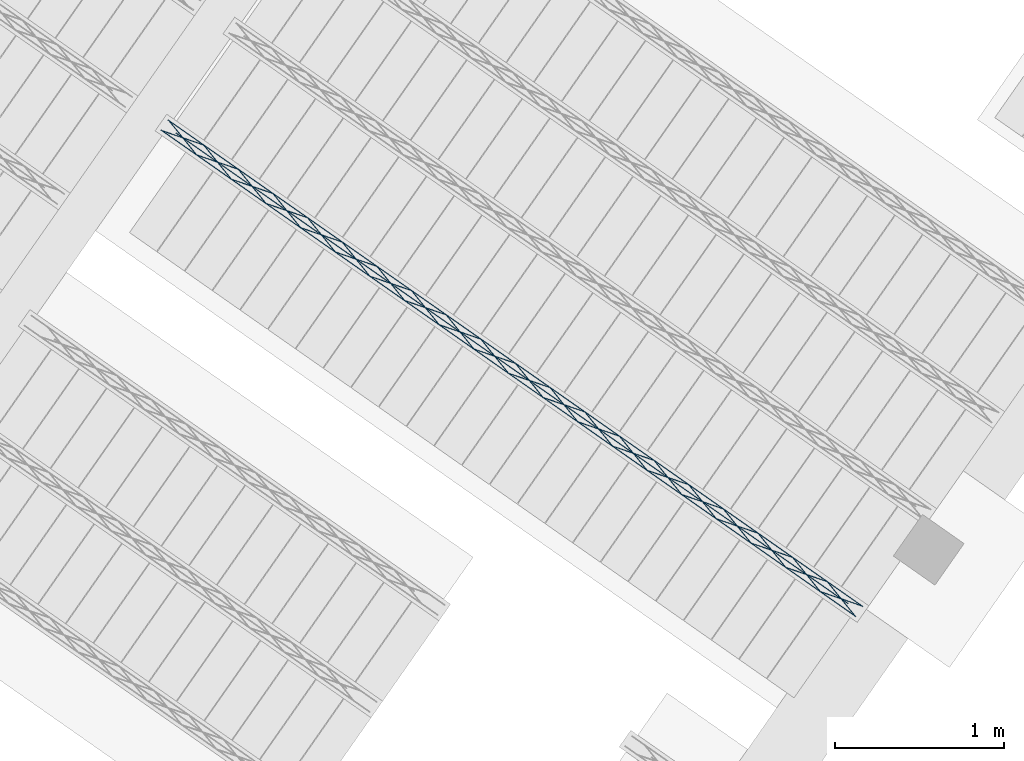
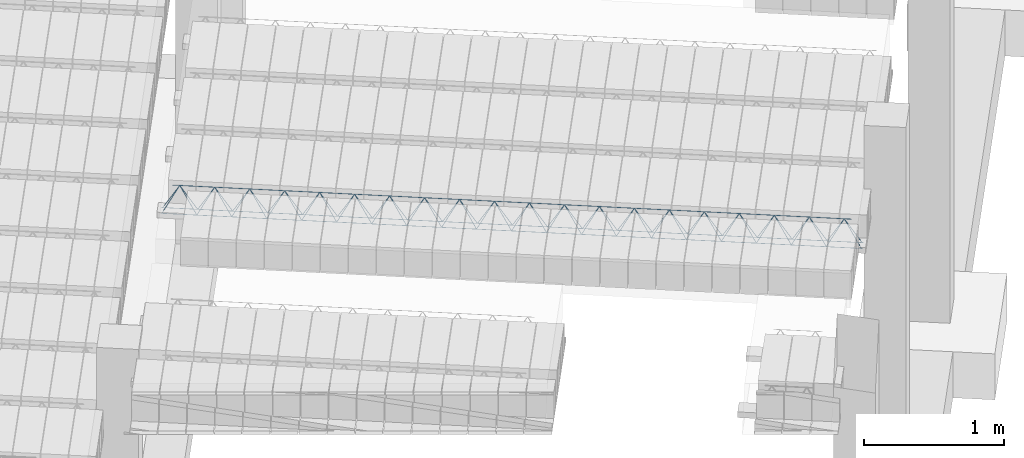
# One storey, part 22 of 80: 1 member.
"""IFC2X3 building model written with IfcOpenShell, lengths in metres."""

from ifc_helpers import new_model, entity, si_unit, converted_unit, derived_unit, direction, frame, origin, origin_2d_with_axis, place, context, subcontext, project, spatial, circle, extrude, type_object, element, save


model = new_model("IFC2X3")

# Units and contexts
model_context = context("Model", 3, precision=1e-05, world=origin(), true_north=direction((6.123031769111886e-17, 1.0)))
body_context = subcontext(model_context, "Body", "Model", "MODEL_VIEW")
ifc_project = project(units=[si_unit("LENGTHUNIT", "METRE"), si_unit("AREAUNIT", "SQUARE_METRE"), si_unit("VOLUMEUNIT", "CUBIC_METRE"), converted_unit("PLANEANGLEUNIT", "DEGREE", entity("IfcPlaneAngleMeasure", 0.017453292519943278), si_unit("PLANEANGLEUNIT", "RADIAN"), dimensions=[0, 0, 0, 0, 0, 0, 0]), si_unit("MASSUNIT", "GRAM", prefix="KILO"), derived_unit("MASSDENSITYUNIT", [(si_unit("MASSUNIT", "GRAM", prefix="KILO"), 1), (si_unit("LENGTHUNIT", "METRE"), -3)]), derived_unit("IONCONCENTRATIONUNIT", [(si_unit("MASSUNIT", "GRAM", prefix="KILO"), 1), (si_unit("LENGTHUNIT", "METRE"), -3)]), derived_unit("MOMENTOFINERTIAUNIT", [(si_unit("LENGTHUNIT", "METRE"), 4)]), si_unit("TIMEUNIT", "SECOND"), si_unit("FREQUENCYUNIT", "HERTZ"), si_unit("THERMODYNAMICTEMPERATUREUNIT", "DEGREE_CELSIUS"), derived_unit("THERMALTRANSMITTANCEUNIT", [(si_unit("MASSUNIT", "GRAM", prefix="KILO"), 1), (si_unit("THERMODYNAMICTEMPERATUREUNIT", "KELVIN"), -1), (si_unit("TIMEUNIT", "SECOND"), -3)]), derived_unit("THERMALCONDUCTANCEUNIT", [(si_unit("MASSUNIT", "GRAM", prefix="KILO"), 1), (si_unit("THERMODYNAMICTEMPERATUREUNIT", "KELVIN"), -1), (si_unit("TIMEUNIT", "SECOND"), -3), (si_unit("LENGTHUNIT", "METRE"), 1)]), derived_unit("VOLUMETRICFLOWRATEUNIT", [(si_unit("LENGTHUNIT", "METRE", prefix="DECI"), 3), (si_unit("TIMEUNIT", "SECOND"), -1)]), derived_unit("MASSFLOWRATEUNIT", [(si_unit("MASSUNIT", "GRAM", prefix="KILO"), 1), (si_unit("TIMEUNIT", "SECOND"), -1)]), derived_unit("ROTATIONALFREQUENCYUNIT", [(si_unit("TIMEUNIT", "SECOND"), -1)]), si_unit("ELECTRICCURRENTUNIT", "AMPERE"), si_unit("ELECTRICVOLTAGEUNIT", "VOLT"), si_unit("POWERUNIT", "WATT"), si_unit("FORCEUNIT", "NEWTON", prefix="KILO"), si_unit("ILLUMINANCEUNIT", "LUX"), si_unit("LUMINOUSFLUXUNIT", "LUMEN"), si_unit("LUMINOUSINTENSITYUNIT", "CANDELA"), si_unit("ENERGYUNIT", "JOULE"), derived_unit("USERDEFINED", [(si_unit("MASSUNIT", "GRAM", prefix="KILO"), -1), (si_unit("LENGTHUNIT", "METRE"), -2), (si_unit("TIMEUNIT", "SECOND"), 3), (si_unit("LUMINOUSFLUXUNIT", "LUMEN"), 1)]), derived_unit("USERDEFINED", [(si_unit("MASSUNIT", "GRAM", prefix="KILO"), 1), (si_unit("TIMEUNIT", "SECOND"), -3), (si_unit("LENGTHUNIT", "METRE"), 3), (si_unit("ELECTRICCURRENTUNIT", "AMPERE"), -2)]), derived_unit("SOUNDPOWERUNIT", [(si_unit("MASSUNIT", "GRAM", prefix="KILO"), 1), (si_unit("TIMEUNIT", "SECOND"), -3), (si_unit("LENGTHUNIT", "METRE"), 2)]), derived_unit("SOUNDPRESSUREUNIT", [(si_unit("MASSUNIT", "GRAM", prefix="KILO"), 1), (si_unit("LENGTHUNIT", "METRE"), -1), (si_unit("TIMEUNIT", "SECOND"), -2)]), derived_unit("LINEARVELOCITYUNIT", [(si_unit("LENGTHUNIT", "METRE"), 1), (si_unit("TIMEUNIT", "SECOND"), -1)]), si_unit("PRESSUREUNIT", "PASCAL"), derived_unit("USERDEFINED", [(si_unit("MASSUNIT", "GRAM", prefix="KILO"), 1), (si_unit("LENGTHUNIT", "METRE"), -2), (si_unit("TIMEUNIT", "SECOND"), -2)]), derived_unit("LINEARFORCEUNIT", [(si_unit("MASSUNIT", "GRAM", prefix="KILO"), 1), (si_unit("TIMEUNIT", "SECOND"), -2)]), derived_unit("PLANARFORCEUNIT", [(si_unit("MASSUNIT", "GRAM", prefix="KILO"), 1), (si_unit("LENGTHUNIT", "METRE"), -1), (si_unit("TIMEUNIT", "SECOND"), -2)]), derived_unit("SPECIFICHEATCAPACITYUNIT", [(si_unit("THERMODYNAMICTEMPERATUREUNIT", "KELVIN"), -1), (si_unit("LENGTHUNIT", "METRE"), 2), (si_unit("TIMEUNIT", "SECOND"), -2)]), derived_unit("HEATFLUXDENSITYUNIT", [(si_unit("MASSUNIT", "GRAM", prefix="KILO"), 1), (si_unit("TIMEUNIT", "SECOND"), -3)]), derived_unit("HEATINGVALUEUNIT", [(si_unit("LENGTHUNIT", "METRE"), 2), (si_unit("TIMEUNIT", "SECOND"), -2)]), derived_unit("VAPORPERMEABILITYUNIT", [(si_unit("LENGTHUNIT", "METRE"), -1), (si_unit("TIMEUNIT", "SECOND"), 1)]), derived_unit("DYNAMICVISCOSITYUNIT", [(si_unit("MASSUNIT", "GRAM", prefix="KILO"), 1), (si_unit("TIMEUNIT", "SECOND"), -1), (si_unit("LENGTHUNIT", "METRE"), -1)]), derived_unit("THERMALEXPANSIONCOEFFICIENTUNIT", [(si_unit("THERMODYNAMICTEMPERATUREUNIT", "KELVIN"), -1)]), derived_unit("MODULUSOFELASTICITYUNIT", [(si_unit("MASSUNIT", "GRAM", prefix="KILO"), 1), (si_unit("LENGTHUNIT", "METRE"), -1), (si_unit("TIMEUNIT", "SECOND"), -2)]), derived_unit("ISOTHERMALMOISTURECAPACITYUNIT", [(si_unit("MASSUNIT", "GRAM", prefix="KILO"), -1), (si_unit("LENGTHUNIT", "METRE"), 3)]), derived_unit("MOISTUREDIFFUSIVITYUNIT", [(si_unit("TIMEUNIT", "SECOND"), -1), (si_unit("LENGTHUNIT", "METRE"), 2)]), derived_unit("MASSPERLENGTHUNIT", [(si_unit("MASSUNIT", "GRAM", prefix="KILO"), 1), (si_unit("LENGTHUNIT", "METRE"), -1)]), derived_unit("THERMALRESISTANCEUNIT", [(si_unit("MASSUNIT", "GRAM", prefix="KILO"), -1), (si_unit("TIMEUNIT", "SECOND"), 3), (si_unit("THERMODYNAMICTEMPERATUREUNIT", "KELVIN"), 1)]), derived_unit("ACCELERATIONUNIT", [(si_unit("LENGTHUNIT", "METRE"), 1), (si_unit("TIMEUNIT", "SECOND"), -2)]), derived_unit("ANGULARVELOCITYUNIT", [(si_unit("TIMEUNIT", "SECOND"), -1), (si_unit("PLANEANGLEUNIT", "RADIAN"), 1)]), derived_unit("LINEARSTIFFNESSUNIT", [(si_unit("MASSUNIT", "GRAM", prefix="KILO"), 1), (si_unit("TIMEUNIT", "SECOND"), -2)]), derived_unit("WARPINGCONSTANTUNIT", [(si_unit("LENGTHUNIT", "METRE"), 6)]), derived_unit("LINEARMOMENTUNIT", [(si_unit("MASSUNIT", "GRAM", prefix="KILO"), 1), (si_unit("LENGTHUNIT", "METRE"), 1), (si_unit("TIMEUNIT", "SECOND"), -2)]), derived_unit("TORQUEUNIT", [(si_unit("MASSUNIT", "GRAM", prefix="KILO"), 1), (si_unit("LENGTHUNIT", "METRE"), 2), (si_unit("TIMEUNIT", "SECOND"), -2)])], contexts=[model_context])

# Site, building, storey
site_placement = place(None, origin())
site = spatial("IfcSite", under=ifc_project, at=site_placement, Name="Default", CompositionType="ELEMENT")
building_placement = place(site_placement, origin())
building = spatial("IfcBuilding", under=site, at=building_placement, CompositionType="ELEMENT")
storey_placement = place(building_placement, frame((0.0, 0.0, 95.94)))
storey = spatial("IfcBuildingStorey", under=building, at=storey_placement, Name="PB", CompositionType="ELEMENT", Elevation=95.94)

# Member
member_type = type_object("IfcMemberType", Name="Celosía (Vigueta 1 - Paño 6)", PredefinedType="NOTDEFINED")
member_placement = place(storey_placement, origin())
element("IfcMember", 1, at=member_placement, inside=storey, type_object=member_type, Name="Celosía (Vigueta 1 - Paño 6)", context=body_context, shape_type="SweptSolid", body=[
    extrude(circle(Radius=0.0025, at=origin_2d_with_axis()), frame((3.3589045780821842, 3.7815857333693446, 3.3049999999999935), z_axis=(0.8191520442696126, -0.5735764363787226, 0.0), x_axis=(-0.5735764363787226, -0.8191520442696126, 0.0)), (0.0, 0.0, 1.0), 5.017554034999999),
    extrude(circle(Radius=0.0025, at=origin_2d_with_axis()), frame((3.4481794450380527, 3.763022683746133, 3.5299999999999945), z_axis=(0.8191520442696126, -0.5735764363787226, 0.0), x_axis=(-0.5735764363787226, -0.8191520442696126, 0.0)), (0.0, 0.0, 1.0), 4.849999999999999),
    extrude(circle(Radius=0.0025, at=origin_2d_with_axis()), frame((7.461854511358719, 0.9086692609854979, 3.3049999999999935), z_axis=(-0.3145304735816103, 0.389334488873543, 0.8657304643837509), x_axis=(-0.7778747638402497, -0.6284193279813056, 0.0)), (0.0, 0.0, 1.0), 0.2598961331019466),
    extrude(circle(Radius=0.0025, at=origin_2d_with_axis()), frame((7.257066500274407, 1.052063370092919, 3.3049999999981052), z_axis=(0.47343050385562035, -0.1624017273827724, 0.8657304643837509), x_axis=(-0.3244721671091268, -0.9458952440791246, 0.0)), (0.0, 0.0, 1.0), 0.25989613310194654),
    extrude(circle(Radius=0.0025, at=origin_2d_with_axis()), frame((7.257066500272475, 1.0520633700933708, 3.3049999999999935), z_axis=(-0.3145304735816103, 0.389334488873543, 0.8657304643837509), x_axis=(-0.7778747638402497, -0.6284193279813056, 0.0)), (0.0, 0.0, 1.0), 0.2598961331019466),
    extrude(circle(Radius=0.0025, at=origin_2d_with_axis()), frame((7.052278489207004, 1.1954574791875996, 3.3049999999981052), z_axis=(0.47343050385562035, -0.1624017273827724, 0.8657304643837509), x_axis=(-0.3244721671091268, -0.9458952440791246, 0.0)), (0.0, 0.0, 1.0), 0.25989613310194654),
    extrude(circle(Radius=0.0025, at=origin_2d_with_axis()), frame((7.0522784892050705, 1.1954574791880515, 3.3049999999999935), z_axis=(-0.3145304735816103, 0.389334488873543, 0.8657304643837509), x_axis=(-0.7778747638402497, -0.6284193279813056, 0.0)), (0.0, 0.0, 1.0), 0.2598961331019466),
    extrude(circle(Radius=0.0025, at=origin_2d_with_axis()), frame((6.8474904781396, 1.3388515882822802, 3.3049999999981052), z_axis=(0.47343050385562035, -0.1624017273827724, 0.8657304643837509), x_axis=(-0.3244721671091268, -0.9458952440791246, 0.0)), (0.0, 0.0, 1.0), 0.25989613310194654),
    extrude(circle(Radius=0.0025, at=origin_2d_with_axis()), frame((6.847490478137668, 1.338851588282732, 3.3049999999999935), z_axis=(-0.3145304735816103, 0.389334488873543, 0.8657304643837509), x_axis=(-0.7778747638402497, -0.6284193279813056, 0.0)), (0.0, 0.0, 1.0), 0.2598961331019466),
    extrude(circle(Radius=0.0025, at=origin_2d_with_axis()), frame((6.642702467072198, 1.4822456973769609, 3.3049999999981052), z_axis=(0.47343050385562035, -0.1624017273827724, 0.8657304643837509), x_axis=(-0.3244721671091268, -0.9458952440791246, 0.0)), (0.0, 0.0, 1.0), 0.25989613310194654),
    extrude(circle(Radius=0.0025, at=origin_2d_with_axis()), frame((6.642702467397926, 1.482245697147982, 3.3049999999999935), z_axis=(-0.3145304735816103, 0.389334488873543, 0.8657304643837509), x_axis=(-0.7778747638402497, -0.6284193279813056, 0.0)), (0.0, 0.0, 1.0), 0.2598961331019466),
    extrude(circle(Radius=0.0025, at=origin_2d_with_axis()), frame((6.4379144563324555, 1.6256398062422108, 3.3049999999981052), z_axis=(0.47343050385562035, -0.1624017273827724, 0.8657304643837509), x_axis=(-0.3244721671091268, -0.9458952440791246, 0.0)), (0.0, 0.0, 1.0), 0.25989613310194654),
    extrude(circle(Radius=0.0025, at=origin_2d_with_axis()), frame((6.437914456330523, 1.6256398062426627, 3.3049999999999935), z_axis=(-0.3145304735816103, 0.389334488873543, 0.8657304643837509), x_axis=(-0.7778747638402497, -0.6284193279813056, 0.0)), (0.0, 0.0, 1.0), 0.2598961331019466),
    extrude(circle(Radius=0.0025, at=origin_2d_with_axis()), frame((6.233126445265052, 1.7690339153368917, 3.3049999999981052), z_axis=(0.47343050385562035, -0.1624017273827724, 0.8657304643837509), x_axis=(-0.3244721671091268, -0.9458952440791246, 0.0)), (0.0, 0.0, 1.0), 0.25989613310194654),
    extrude(circle(Radius=0.0025, at=origin_2d_with_axis()), frame((6.23312644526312, 1.7690339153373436, 3.3049999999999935), z_axis=(-0.3145304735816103, 0.389334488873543, 0.8657304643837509), x_axis=(-0.7778747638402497, -0.6284193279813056, 0.0)), (0.0, 0.0, 1.0), 0.2598961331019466),
    extrude(circle(Radius=0.0025, at=origin_2d_with_axis()), frame((6.028338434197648, 1.9124280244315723, 3.3049999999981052), z_axis=(0.47343050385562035, -0.1624017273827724, 0.8657304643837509), x_axis=(-0.3244721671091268, -0.9458952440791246, 0.0)), (0.0, 0.0, 1.0), 0.25989613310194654),
    extrude(circle(Radius=0.0025, at=origin_2d_with_axis()), frame((6.028338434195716, 1.9124280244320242, 3.3049999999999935), z_axis=(-0.3145304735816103, 0.389334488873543, 0.8657304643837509), x_axis=(-0.7778747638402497, -0.6284193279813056, 0.0)), (0.0, 0.0, 1.0), 0.2598961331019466),
    extrude(circle(Radius=0.0025, at=origin_2d_with_axis()), frame((5.8235504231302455, 2.0558221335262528, 3.3049999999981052), z_axis=(0.47343050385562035, -0.1624017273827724, 0.8657304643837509), x_axis=(-0.3244721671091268, -0.9458952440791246, 0.0)), (0.0, 0.0, 1.0), 0.25989613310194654),
    extrude(circle(Radius=0.0025, at=origin_2d_with_axis()), frame((5.823550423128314, 2.055822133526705, 3.3049999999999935), z_axis=(-0.3145304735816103, 0.389334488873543, 0.8657304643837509), x_axis=(-0.7778747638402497, -0.6284193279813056, 0.0)), (0.0, 0.0, 1.0), 0.2598961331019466),
    extrude(circle(Radius=0.0025, at=origin_2d_with_axis()), frame((5.618762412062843, 2.199216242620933, 3.3049999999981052), z_axis=(0.47343050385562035, -0.1624017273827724, 0.8657304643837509), x_axis=(-0.3244721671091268, -0.9458952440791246, 0.0)), (0.0, 0.0, 1.0), 0.25989613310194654),
    extrude(circle(Radius=0.0025, at=origin_2d_with_axis()), frame((5.61876241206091, 2.199216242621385, 3.3049999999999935), z_axis=(-0.3145304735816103, 0.389334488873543, 0.8657304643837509), x_axis=(-0.7778747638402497, -0.6284193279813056, 0.0)), (0.0, 0.0, 1.0), 0.2598961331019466),
    extrude(circle(Radius=0.0025, at=origin_2d_with_axis()), frame((5.413974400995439, 2.342610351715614, 3.3049999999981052), z_axis=(0.47343050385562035, -0.1624017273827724, 0.8657304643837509), x_axis=(-0.3244721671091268, -0.9458952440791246, 0.0)), (0.0, 0.0, 1.0), 0.25989613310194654),
    extrude(circle(Radius=0.0025, at=origin_2d_with_axis()), frame((5.413974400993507, 2.3426103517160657, 3.3049999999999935), z_axis=(-0.3145304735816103, 0.389334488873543, 0.8657304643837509), x_axis=(-0.7778747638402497, -0.6284193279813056, 0.0)), (0.0, 0.0, 1.0), 0.2598961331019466),
    extrude(circle(Radius=0.0025, at=origin_2d_with_axis()), frame((5.209186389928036, 2.486004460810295, 3.3049999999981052), z_axis=(0.47343050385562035, -0.1624017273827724, 0.8657304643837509), x_axis=(-0.3244721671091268, -0.9458952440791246, 0.0)), (0.0, 0.0, 1.0), 0.25989613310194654),
    extrude(circle(Radius=0.0025, at=origin_2d_with_axis()), frame((5.209186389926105, 2.4860044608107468, 3.3049999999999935), z_axis=(-0.3145304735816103, 0.389334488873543, 0.8657304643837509), x_axis=(-0.7778747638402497, -0.6284193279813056, 0.0)), (0.0, 0.0, 1.0), 0.2598961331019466),
    extrude(circle(Radius=0.0025, at=origin_2d_with_axis()), frame((5.004398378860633, 2.6293985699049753, 3.3049999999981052), z_axis=(0.47343050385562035, -0.1624017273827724, 0.8657304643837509), x_axis=(-0.3244721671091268, -0.9458952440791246, 0.0)), (0.0, 0.0, 1.0), 0.25989613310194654),
    extrude(circle(Radius=0.0025, at=origin_2d_with_axis()), frame((5.0043983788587, 2.629398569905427, 3.3049999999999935), z_axis=(-0.3145304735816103, 0.389334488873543, 0.8657304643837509), x_axis=(-0.7778747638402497, -0.6284193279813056, 0.0)), (0.0, 0.0, 1.0), 0.2598961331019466),
    extrude(circle(Radius=0.0025, at=origin_2d_with_axis()), frame((4.799610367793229, 2.7727926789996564, 3.3049999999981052), z_axis=(0.47343050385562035, -0.1624017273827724, 0.8657304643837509), x_axis=(-0.3244721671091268, -0.9458952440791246, 0.0)), (0.0, 0.0, 1.0), 0.25989613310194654),
    extrude(circle(Radius=0.0025, at=origin_2d_with_axis()), frame((4.799610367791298, 2.772792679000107, 3.3049999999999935), z_axis=(-0.3145304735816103, 0.389334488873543, 0.8657304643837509), x_axis=(-0.7778747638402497, -0.6284193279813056, 0.0)), (0.0, 0.0, 1.0), 0.2598961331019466),
    extrude(circle(Radius=0.0025, at=origin_2d_with_axis()), frame((4.594822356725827, 2.916186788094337, 3.3049999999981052), z_axis=(0.47343050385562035, -0.1624017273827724, 0.8657304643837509), x_axis=(-0.3244721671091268, -0.9458952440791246, 0.0)), (0.0, 0.0, 1.0), 0.25989613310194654),
    extrude(circle(Radius=0.0025, at=origin_2d_with_axis()), frame((4.594822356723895, 2.9161867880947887, 3.3049999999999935), z_axis=(-0.3145304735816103, 0.389334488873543, 0.8657304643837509), x_axis=(-0.7778747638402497, -0.6284193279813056, 0.0)), (0.0, 0.0, 1.0), 0.2598961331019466),
    extrude(circle(Radius=0.0025, at=origin_2d_with_axis()), frame((4.390034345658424, 3.0595808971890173, 3.3049999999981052), z_axis=(0.47343050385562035, -0.1624017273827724, 0.8657304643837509), x_axis=(-0.3244721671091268, -0.9458952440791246, 0.0)), (0.0, 0.0, 1.0), 0.25989613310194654),
    extrude(circle(Radius=0.0025, at=origin_2d_with_axis()), frame((4.390034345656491, 3.059580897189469, 3.3049999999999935), z_axis=(-0.3145304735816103, 0.389334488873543, 0.8657304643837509), x_axis=(-0.7778747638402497, -0.6284193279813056, 0.0)), (0.0, 0.0, 1.0), 0.2598961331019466),
    extrude(circle(Radius=0.0025, at=origin_2d_with_axis()), frame((4.185246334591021, 3.202975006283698, 3.3049999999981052), z_axis=(0.47343050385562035, -0.1624017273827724, 0.8657304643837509), x_axis=(-0.3244721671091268, -0.9458952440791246, 0.0)), (0.0, 0.0, 1.0), 0.25989613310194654),
    extrude(circle(Radius=0.0025, at=origin_2d_with_axis()), frame((4.185246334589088, 3.202975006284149, 3.3049999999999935), z_axis=(-0.3145304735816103, 0.389334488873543, 0.8657304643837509), x_axis=(-0.7778747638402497, -0.6284193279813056, 0.0)), (0.0, 0.0, 1.0), 0.2598961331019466),
    extrude(circle(Radius=0.0025, at=origin_2d_with_axis()), frame((3.9804583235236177, 3.3463691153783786, 3.3049999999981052), z_axis=(0.47343050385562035, -0.1624017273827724, 0.8657304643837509), x_axis=(-0.3244721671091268, -0.9458952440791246, 0.0)), (0.0, 0.0, 1.0), 0.25989613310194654),
    extrude(circle(Radius=0.0025, at=origin_2d_with_axis()), frame((3.9804583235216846, 3.34636911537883, 3.3049999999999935), z_axis=(-0.3145304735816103, 0.389334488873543, 0.8657304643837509), x_axis=(-0.7778747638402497, -0.6284193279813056, 0.0)), (0.0, 0.0, 1.0), 0.2598961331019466),
    extrude(circle(Radius=0.0025, at=origin_2d_with_axis()), frame((3.775670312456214, 3.4897632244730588, 3.3049999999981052), z_axis=(0.47343050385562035, -0.1624017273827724, 0.8657304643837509), x_axis=(-0.3244721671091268, -0.9458952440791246, 0.0)), (0.0, 0.0, 1.0), 0.25989613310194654),
    extrude(circle(Radius=0.0025, at=origin_2d_with_axis()), frame((3.775670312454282, 3.489763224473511, 3.3049999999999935), z_axis=(-0.3145304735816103, 0.389334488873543, 0.8657304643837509), x_axis=(-0.7778747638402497, -0.6284193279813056, 0.0)), (0.0, 0.0, 1.0), 0.2598961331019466),
    extrude(circle(Radius=0.0025, at=origin_2d_with_axis()), frame((3.5708823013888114, 3.63315733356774, 3.3049999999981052), z_axis=(0.47343050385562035, -0.1624017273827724, 0.8657304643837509), x_axis=(-0.3244721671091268, -0.9458952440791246, 0.0)), (0.0, 0.0, 1.0), 0.25989613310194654),
    extrude(circle(Radius=0.0025, at=origin_2d_with_axis()), frame((3.5708823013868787, 3.633157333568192, 3.3049999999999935), z_axis=(-0.3145304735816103, 0.389334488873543, 0.8657304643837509), x_axis=(-0.7778747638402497, -0.6284193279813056, 0.0)), (0.0, 0.0, 1.0), 0.2598961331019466),
    extrude(circle(Radius=0.0025, at=origin_2d_with_axis()), frame((3.366094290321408, 3.7765514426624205, 3.3049999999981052), z_axis=(0.47343050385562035, -0.1624017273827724, 0.8657304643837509), x_axis=(-0.3244721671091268, -0.9458952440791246, 0.0)), (0.0, 0.0, 1.0), 0.25989613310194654),
    extrude(circle(Radius=0.0025, at=origin_2d_with_axis()), frame((3.400202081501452, 3.8405646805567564, 3.3049999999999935), z_axis=(0.8191520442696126, -0.5735764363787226, 0.0), x_axis=(-0.5735764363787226, -0.8191520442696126, 0.0)), (0.0, 0.0, 1.0), 5.017554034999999),
    extrude(circle(Radius=0.0025, at=origin_2d_with_axis()), frame((7.503152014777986, 0.96764820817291, 3.3049999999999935), z_axis=(-0.47343050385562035, 0.1624017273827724, 0.8657304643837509), x_axis=(-0.3244721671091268, -0.9458952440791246, 0.0)), (0.0, 0.0, 1.0), 0.25989613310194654),
    extrude(circle(Radius=0.0025, at=origin_2d_with_axis()), frame((7.298364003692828, 1.111042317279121, 3.3049999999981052), z_axis=(0.3145304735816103, -0.389334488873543, 0.8657304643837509), x_axis=(-0.7778747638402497, -0.6284193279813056, 0.0)), (0.0, 0.0, 1.0), 0.2598961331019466),
    extrude(circle(Radius=0.0025, at=origin_2d_with_axis()), frame((7.298364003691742, 1.1110423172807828, 3.3049999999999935), z_axis=(-0.47343050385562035, 0.1624017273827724, 0.8657304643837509), x_axis=(-0.3244721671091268, -0.9458952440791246, 0.0)), (0.0, 0.0, 1.0), 0.25989613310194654),
    extrude(circle(Radius=0.0025, at=origin_2d_with_axis()), frame((7.093575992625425, 1.2544364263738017, 3.3049999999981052), z_axis=(0.3145304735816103, -0.389334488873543, 0.8657304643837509), x_axis=(-0.7778747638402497, -0.6284193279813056, 0.0)), (0.0, 0.0, 1.0), 0.2598961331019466),
    extrude(circle(Radius=0.0025, at=origin_2d_with_axis()), frame((7.093575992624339, 1.2544364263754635, 3.3049999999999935), z_axis=(-0.47343050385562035, 0.1624017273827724, 0.8657304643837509), x_axis=(-0.3244721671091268, -0.9458952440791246, 0.0)), (0.0, 0.0, 1.0), 0.25989613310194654),
    extrude(circle(Radius=0.0025, at=origin_2d_with_axis()), frame((6.888787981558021, 1.3978305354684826, 3.3049999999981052), z_axis=(0.3145304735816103, -0.389334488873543, 0.8657304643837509), x_axis=(-0.7778747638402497, -0.6284193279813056, 0.0)), (0.0, 0.0, 1.0), 0.2598961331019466),
    extrude(circle(Radius=0.0025, at=origin_2d_with_axis()), frame((6.888787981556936, 1.397830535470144, 3.3049999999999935), z_axis=(-0.47343050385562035, 0.1624017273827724, 0.8657304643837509), x_axis=(-0.3244721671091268, -0.9458952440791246, 0.0)), (0.0, 0.0, 1.0), 0.25989613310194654),
    extrude(circle(Radius=0.0025, at=origin_2d_with_axis()), frame((6.683999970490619, 1.541224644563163, 3.3049999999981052), z_axis=(0.3145304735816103, -0.389334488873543, 0.8657304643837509), x_axis=(-0.7778747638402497, -0.6284193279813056, 0.0)), (0.0, 0.0, 1.0), 0.2598961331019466),
    extrude(circle(Radius=0.0025, at=origin_2d_with_axis()), frame((6.683999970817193, 1.5412246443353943, 3.3049999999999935), z_axis=(-0.47343050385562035, 0.1624017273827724, 0.8657304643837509), x_axis=(-0.3244721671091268, -0.9458952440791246, 0.0)), (0.0, 0.0, 1.0), 0.25989613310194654),
    extrude(circle(Radius=0.0025, at=origin_2d_with_axis()), frame((6.479211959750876, 1.684618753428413, 3.3049999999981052), z_axis=(0.3145304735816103, -0.389334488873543, 0.8657304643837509), x_axis=(-0.7778747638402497, -0.6284193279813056, 0.0)), (0.0, 0.0, 1.0), 0.2598961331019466),
    extrude(circle(Radius=0.0025, at=origin_2d_with_axis()), frame((6.47921195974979, 1.684618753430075, 3.3049999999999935), z_axis=(-0.47343050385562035, 0.1624017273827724, 0.8657304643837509), x_axis=(-0.3244721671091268, -0.9458952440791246, 0.0)), (0.0, 0.0, 1.0), 0.25989613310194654),
    extrude(circle(Radius=0.0025, at=origin_2d_with_axis()), frame((6.274423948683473, 1.8280128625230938, 3.3049999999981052), z_axis=(0.3145304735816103, -0.389334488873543, 0.8657304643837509), x_axis=(-0.7778747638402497, -0.6284193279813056, 0.0)), (0.0, 0.0, 1.0), 0.2598961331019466),
    extrude(circle(Radius=0.0025, at=origin_2d_with_axis()), frame((6.274423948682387, 1.8280128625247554, 3.3049999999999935), z_axis=(-0.47343050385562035, 0.1624017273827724, 0.8657304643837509), x_axis=(-0.3244721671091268, -0.9458952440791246, 0.0)), (0.0, 0.0, 1.0), 0.25989613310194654),
    extrude(circle(Radius=0.0025, at=origin_2d_with_axis()), frame((6.069635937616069, 1.9714069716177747, 3.3049999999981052), z_axis=(0.3145304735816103, -0.389334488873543, 0.8657304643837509), x_axis=(-0.7778747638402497, -0.6284193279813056, 0.0)), (0.0, 0.0, 1.0), 0.2598961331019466),
    extrude(circle(Radius=0.0025, at=origin_2d_with_axis()), frame((6.069635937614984, 1.9714069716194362, 3.3049999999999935), z_axis=(-0.47343050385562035, 0.1624017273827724, 0.8657304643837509), x_axis=(-0.3244721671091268, -0.9458952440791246, 0.0)), (0.0, 0.0, 1.0), 0.25989613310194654),
    extrude(circle(Radius=0.0025, at=origin_2d_with_axis()), frame((5.864847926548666, 2.114801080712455, 3.3049999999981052), z_axis=(0.3145304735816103, -0.389334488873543, 0.8657304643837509), x_axis=(-0.7778747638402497, -0.6284193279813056, 0.0)), (0.0, 0.0, 1.0), 0.2598961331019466),
    extrude(circle(Radius=0.0025, at=origin_2d_with_axis()), frame((5.864847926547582, 2.1148010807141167, 3.3049999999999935), z_axis=(-0.47343050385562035, 0.1624017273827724, 0.8657304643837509), x_axis=(-0.3244721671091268, -0.9458952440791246, 0.0)), (0.0, 0.0, 1.0), 0.25989613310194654),
    extrude(circle(Radius=0.0025, at=origin_2d_with_axis()), frame((5.660059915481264, 2.258195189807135, 3.3049999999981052), z_axis=(0.3145304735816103, -0.389334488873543, 0.8657304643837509), x_axis=(-0.7778747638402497, -0.6284193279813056, 0.0)), (0.0, 0.0, 1.0), 0.2598961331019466),
    extrude(circle(Radius=0.0025, at=origin_2d_with_axis()), frame((5.660059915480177, 2.2581951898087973, 3.3049999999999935), z_axis=(-0.47343050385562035, 0.1624017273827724, 0.8657304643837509), x_axis=(-0.3244721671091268, -0.9458952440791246, 0.0)), (0.0, 0.0, 1.0), 0.25989613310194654),
    extrude(circle(Radius=0.0025, at=origin_2d_with_axis()), frame((5.45527190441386, 2.401589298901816, 3.3049999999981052), z_axis=(0.3145304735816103, -0.389334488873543, 0.8657304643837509), x_axis=(-0.7778747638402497, -0.6284193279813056, 0.0)), (0.0, 0.0, 1.0), 0.2598961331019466),
    extrude(circle(Radius=0.0025, at=origin_2d_with_axis()), frame((5.455271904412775, 2.401589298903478, 3.3049999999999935), z_axis=(-0.47343050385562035, 0.1624017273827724, 0.8657304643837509), x_axis=(-0.3244721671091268, -0.9458952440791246, 0.0)), (0.0, 0.0, 1.0), 0.25989613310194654),
    extrude(circle(Radius=0.0025, at=origin_2d_with_axis()), frame((5.250483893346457, 2.544983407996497, 3.3049999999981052), z_axis=(0.3145304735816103, -0.389334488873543, 0.8657304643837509), x_axis=(-0.7778747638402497, -0.6284193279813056, 0.0)), (0.0, 0.0, 1.0), 0.2598961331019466),
    extrude(circle(Radius=0.0025, at=origin_2d_with_axis()), frame((5.250483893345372, 2.5449834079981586, 3.3049999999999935), z_axis=(-0.47343050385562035, 0.1624017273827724, 0.8657304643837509), x_axis=(-0.3244721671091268, -0.9458952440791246, 0.0)), (0.0, 0.0, 1.0), 0.25989613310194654),
    extrude(circle(Radius=0.0025, at=origin_2d_with_axis()), frame((5.045695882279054, 2.6883775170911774, 3.3049999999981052), z_axis=(0.3145304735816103, -0.389334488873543, 0.8657304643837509), x_axis=(-0.7778747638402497, -0.6284193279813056, 0.0)), (0.0, 0.0, 1.0), 0.2598961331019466),
    extrude(circle(Radius=0.0025, at=origin_2d_with_axis()), frame((5.045695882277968, 2.688377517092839, 3.3049999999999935), z_axis=(-0.47343050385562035, 0.1624017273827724, 0.8657304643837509), x_axis=(-0.3244721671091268, -0.9458952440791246, 0.0)), (0.0, 0.0, 1.0), 0.25989613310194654),
    extrude(circle(Radius=0.0025, at=origin_2d_with_axis()), frame((4.84090787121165, 2.831771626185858, 3.3049999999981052), z_axis=(0.3145304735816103, -0.389334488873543, 0.8657304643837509), x_axis=(-0.7778747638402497, -0.6284193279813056, 0.0)), (0.0, 0.0, 1.0), 0.2598961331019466),
    extrude(circle(Radius=0.0025, at=origin_2d_with_axis()), frame((4.8409078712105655, 2.83177162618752, 3.3049999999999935), z_axis=(-0.47343050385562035, 0.1624017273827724, 0.8657304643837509), x_axis=(-0.3244721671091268, -0.9458952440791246, 0.0)), (0.0, 0.0, 1.0), 0.25989613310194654),
    extrude(circle(Radius=0.0025, at=origin_2d_with_axis()), frame((4.636119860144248, 2.975165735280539, 3.3049999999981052), z_axis=(0.3145304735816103, -0.389334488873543, 0.8657304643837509), x_axis=(-0.7778747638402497, -0.6284193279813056, 0.0)), (0.0, 0.0, 1.0), 0.2598961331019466),
    extrude(circle(Radius=0.0025, at=origin_2d_with_axis()), frame((4.636119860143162, 2.9751657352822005, 3.3049999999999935), z_axis=(-0.47343050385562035, 0.1624017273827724, 0.8657304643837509), x_axis=(-0.3244721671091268, -0.9458952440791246, 0.0)), (0.0, 0.0, 1.0), 0.25989613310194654),
    extrude(circle(Radius=0.0025, at=origin_2d_with_axis()), frame((4.4313318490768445, 3.1185598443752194, 3.3049999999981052), z_axis=(0.3145304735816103, -0.389334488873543, 0.8657304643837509), x_axis=(-0.7778747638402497, -0.6284193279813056, 0.0)), (0.0, 0.0, 1.0), 0.2598961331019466),
    extrude(circle(Radius=0.0025, at=origin_2d_with_axis()), frame((4.431331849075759, 3.118559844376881, 3.3049999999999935), z_axis=(-0.47343050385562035, 0.1624017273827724, 0.8657304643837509), x_axis=(-0.3244721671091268, -0.9458952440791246, 0.0)), (0.0, 0.0, 1.0), 0.25989613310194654),
    extrude(circle(Radius=0.0025, at=origin_2d_with_axis()), frame((4.226543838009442, 3.2619539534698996, 3.3049999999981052), z_axis=(0.3145304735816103, -0.389334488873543, 0.8657304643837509), x_axis=(-0.7778747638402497, -0.6284193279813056, 0.0)), (0.0, 0.0, 1.0), 0.2598961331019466),
    extrude(circle(Radius=0.0025, at=origin_2d_with_axis()), frame((4.2265438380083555, 3.261953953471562, 3.3049999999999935), z_axis=(-0.47343050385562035, 0.1624017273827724, 0.8657304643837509), x_axis=(-0.3244721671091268, -0.9458952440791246, 0.0)), (0.0, 0.0, 1.0), 0.25989613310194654),
    extrude(circle(Radius=0.0025, at=origin_2d_with_axis()), frame((4.021755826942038, 3.4053480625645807, 3.3049999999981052), z_axis=(0.3145304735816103, -0.389334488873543, 0.8657304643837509), x_axis=(-0.7778747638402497, -0.6284193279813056, 0.0)), (0.0, 0.0, 1.0), 0.2598961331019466),
    extrude(circle(Radius=0.0025, at=origin_2d_with_axis()), frame((4.021755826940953, 3.405348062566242, 3.3049999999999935), z_axis=(-0.47343050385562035, 0.1624017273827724, 0.8657304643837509), x_axis=(-0.3244721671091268, -0.9458952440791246, 0.0)), (0.0, 0.0, 1.0), 0.25989613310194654),
    extrude(circle(Radius=0.0025, at=origin_2d_with_axis()), frame((3.816967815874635, 3.548742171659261, 3.3049999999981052), z_axis=(0.3145304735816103, -0.389334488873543, 0.8657304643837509), x_axis=(-0.7778747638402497, -0.6284193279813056, 0.0)), (0.0, 0.0, 1.0), 0.2598961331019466),
    extrude(circle(Radius=0.0025, at=origin_2d_with_axis()), frame((3.8169678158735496, 3.548742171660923, 3.3049999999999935), z_axis=(-0.47343050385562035, 0.1624017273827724, 0.8657304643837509), x_axis=(-0.3244721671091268, -0.9458952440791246, 0.0)), (0.0, 0.0, 1.0), 0.25989613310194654),
    extrude(circle(Radius=0.0025, at=origin_2d_with_axis()), frame((3.612179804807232, 3.6921362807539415, 3.3049999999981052), z_axis=(0.3145304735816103, -0.389334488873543, 0.8657304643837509), x_axis=(-0.7778747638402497, -0.6284193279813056, 0.0)), (0.0, 0.0, 1.0), 0.2598961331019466),
    extrude(circle(Radius=0.0025, at=origin_2d_with_axis()), frame((3.612179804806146, 3.6921362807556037, 3.3049999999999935), z_axis=(-0.47343050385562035, 0.1624017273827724, 0.8657304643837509), x_axis=(-0.3244721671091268, -0.9458952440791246, 0.0)), (0.0, 0.0, 1.0), 0.25989613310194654),
    extrude(circle(Radius=0.0025, at=origin_2d_with_axis()), frame((3.407391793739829, 3.8355303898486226, 3.3049999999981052), z_axis=(0.3145304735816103, -0.389334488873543, 0.8657304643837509), x_axis=(-0.7778747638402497, -0.6284193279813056, 0.0)), (0.0, 0.0, 1.0), 0.2598961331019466),
])

save(model, "model.ifc")
